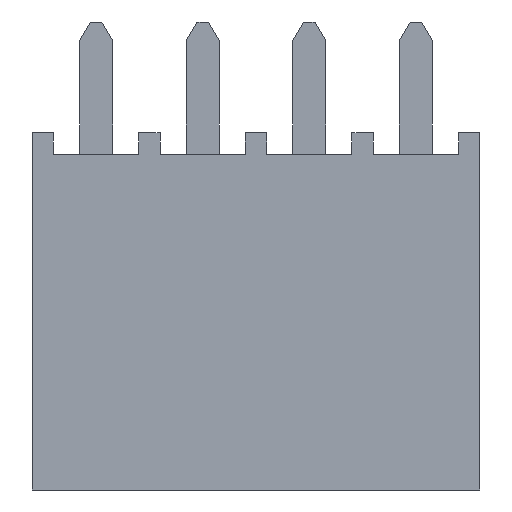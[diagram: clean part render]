
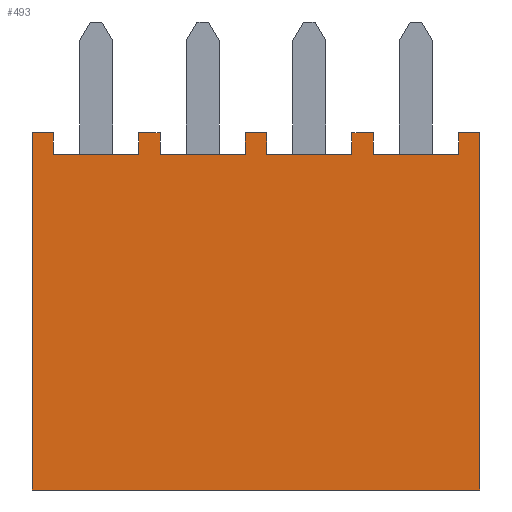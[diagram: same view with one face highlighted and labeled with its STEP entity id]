
A CAD part, front view. The second image highlights one B-rep face of the part: STEP entity #493.
In plain terms, the highlighted planar face has unit normal (0, -1, 0).
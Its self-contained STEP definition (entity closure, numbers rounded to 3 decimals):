
#413 = EDGE_CURVE('',#414,#416,#418,.T.);
#414 = VERTEX_POINT('',#415);
#415 = CARTESIAN_POINT('',(0.254,-1.173,-2.274));
#416 = VERTEX_POINT('',#417);
#417 = CARTESIAN_POINT('',(2.286,-1.173,-2.274));
#418 = LINE('',#419,#420);
#419 = CARTESIAN_POINT('',(5.334,-1.173,-2.274));
#420 = VECTOR('',#421,1.);
#421 = DIRECTION('',(1.,0.,0.));
#493 = ADVANCED_FACE('',(#494),#647,.F.);
#494 = FACE_BOUND('',#495,.T.);
#495 = EDGE_LOOP('',(#496,#506,#514,#522,#530,#536,#537,#545,#553,#561,
    #569,#577,#585,#593,#601,#609,#617,#625,#633,#641));
#496 = ORIENTED_EDGE('',*,*,#497,.F.);
#497 = EDGE_CURVE('',#498,#500,#502,.T.);
#498 = VERTEX_POINT('',#499);
#499 = CARTESIAN_POINT('',(4.826,-1.173,-2.274));
#500 = VERTEX_POINT('',#501);
#501 = CARTESIAN_POINT('',(4.826,-1.173,-1.766));
#502 = LINE('',#503,#504);
#503 = CARTESIAN_POINT('',(4.826,-1.173,-10.275));
#504 = VECTOR('',#505,1.);
#505 = DIRECTION('',(0.,0.,1.));
#506 = ORIENTED_EDGE('',*,*,#507,.F.);
#507 = EDGE_CURVE('',#508,#498,#510,.T.);
#508 = VERTEX_POINT('',#509);
#509 = CARTESIAN_POINT('',(2.794,-1.173,-2.274));
#510 = LINE('',#511,#512);
#511 = CARTESIAN_POINT('',(5.334,-1.173,-2.274));
#512 = VECTOR('',#513,1.);
#513 = DIRECTION('',(1.,0.,0.));
#514 = ORIENTED_EDGE('',*,*,#515,.F.);
#515 = EDGE_CURVE('',#516,#508,#518,.T.);
#516 = VERTEX_POINT('',#517);
#517 = CARTESIAN_POINT('',(2.794,-1.173,-1.766));
#518 = LINE('',#519,#520);
#519 = CARTESIAN_POINT('',(2.794,-1.173,-10.275));
#520 = VECTOR('',#521,1.);
#521 = DIRECTION('',(0.,0.,-1.));
#522 = ORIENTED_EDGE('',*,*,#523,.T.);
#523 = EDGE_CURVE('',#516,#524,#526,.T.);
#524 = VERTEX_POINT('',#525);
#525 = CARTESIAN_POINT('',(2.286,-1.173,-1.766));
#526 = LINE('',#527,#528);
#527 = CARTESIAN_POINT('',(5.334,-1.173,-1.766));
#528 = VECTOR('',#529,1.);
#529 = DIRECTION('',(-1.,0.,0.));
#530 = ORIENTED_EDGE('',*,*,#531,.F.);
#531 = EDGE_CURVE('',#416,#524,#532,.T.);
#532 = LINE('',#533,#534);
#533 = CARTESIAN_POINT('',(2.286,-1.173,-10.275));
#534 = VECTOR('',#535,1.);
#535 = DIRECTION('',(0.,0.,1.));
#536 = ORIENTED_EDGE('',*,*,#413,.F.);
#537 = ORIENTED_EDGE('',*,*,#538,.F.);
#538 = EDGE_CURVE('',#539,#414,#541,.T.);
#539 = VERTEX_POINT('',#540);
#540 = CARTESIAN_POINT('',(0.254,-1.173,-1.766));
#541 = LINE('',#542,#543);
#542 = CARTESIAN_POINT('',(0.254,-1.173,-10.275));
#543 = VECTOR('',#544,1.);
#544 = DIRECTION('',(0.,0.,-1.));
#545 = ORIENTED_EDGE('',*,*,#546,.T.);
#546 = EDGE_CURVE('',#539,#547,#549,.T.);
#547 = VERTEX_POINT('',#548);
#548 = CARTESIAN_POINT('',(-0.254,-1.173,-1.766));
#549 = LINE('',#550,#551);
#550 = CARTESIAN_POINT('',(5.334,-1.173,-1.766));
#551 = VECTOR('',#552,1.);
#552 = DIRECTION('',(-1.,0.,0.));
#553 = ORIENTED_EDGE('',*,*,#554,.F.);
#554 = EDGE_CURVE('',#555,#547,#557,.T.);
#555 = VERTEX_POINT('',#556);
#556 = CARTESIAN_POINT('',(-0.254,-1.173,-2.274));
#557 = LINE('',#558,#559);
#558 = CARTESIAN_POINT('',(-0.254,-1.173,-10.275));
#559 = VECTOR('',#560,1.);
#560 = DIRECTION('',(0.,0.,1.));
#561 = ORIENTED_EDGE('',*,*,#562,.F.);
#562 = EDGE_CURVE('',#563,#555,#565,.T.);
#563 = VERTEX_POINT('',#564);
#564 = CARTESIAN_POINT('',(-2.286,-1.173,-2.274));
#565 = LINE('',#566,#567);
#566 = CARTESIAN_POINT('',(5.334,-1.173,-2.274));
#567 = VECTOR('',#568,1.);
#568 = DIRECTION('',(1.,0.,0.));
#569 = ORIENTED_EDGE('',*,*,#570,.F.);
#570 = EDGE_CURVE('',#571,#563,#573,.T.);
#571 = VERTEX_POINT('',#572);
#572 = CARTESIAN_POINT('',(-2.286,-1.173,-1.766));
#573 = LINE('',#574,#575);
#574 = CARTESIAN_POINT('',(-2.286,-1.173,-10.275));
#575 = VECTOR('',#576,1.);
#576 = DIRECTION('',(0.,0.,-1.));
#577 = ORIENTED_EDGE('',*,*,#578,.T.);
#578 = EDGE_CURVE('',#571,#579,#581,.T.);
#579 = VERTEX_POINT('',#580);
#580 = CARTESIAN_POINT('',(-2.794,-1.173,-1.766));
#581 = LINE('',#582,#583);
#582 = CARTESIAN_POINT('',(5.334,-1.173,-1.766));
#583 = VECTOR('',#584,1.);
#584 = DIRECTION('',(-1.,0.,0.));
#585 = ORIENTED_EDGE('',*,*,#586,.F.);
#586 = EDGE_CURVE('',#587,#579,#589,.T.);
#587 = VERTEX_POINT('',#588);
#588 = CARTESIAN_POINT('',(-2.794,-1.173,-2.274));
#589 = LINE('',#590,#591);
#590 = CARTESIAN_POINT('',(-2.794,-1.173,-10.275));
#591 = VECTOR('',#592,1.);
#592 = DIRECTION('',(0.,0.,1.));
#593 = ORIENTED_EDGE('',*,*,#594,.F.);
#594 = EDGE_CURVE('',#595,#587,#597,.T.);
#595 = VERTEX_POINT('',#596);
#596 = CARTESIAN_POINT('',(-4.826,-1.173,-2.274));
#597 = LINE('',#598,#599);
#598 = CARTESIAN_POINT('',(5.334,-1.173,-2.274));
#599 = VECTOR('',#600,1.);
#600 = DIRECTION('',(1.,0.,0.));
#601 = ORIENTED_EDGE('',*,*,#602,.F.);
#602 = EDGE_CURVE('',#603,#595,#605,.T.);
#603 = VERTEX_POINT('',#604);
#604 = CARTESIAN_POINT('',(-4.826,-1.173,-1.766));
#605 = LINE('',#606,#607);
#606 = CARTESIAN_POINT('',(-4.826,-1.173,-10.275));
#607 = VECTOR('',#608,1.);
#608 = DIRECTION('',(0.,0.,-1.));
#609 = ORIENTED_EDGE('',*,*,#610,.T.);
#610 = EDGE_CURVE('',#603,#611,#613,.T.);
#611 = VERTEX_POINT('',#612);
#612 = CARTESIAN_POINT('',(-5.334,-1.173,-1.766));
#613 = LINE('',#614,#615);
#614 = CARTESIAN_POINT('',(5.334,-1.173,-1.766));
#615 = VECTOR('',#616,1.);
#616 = DIRECTION('',(-1.,0.,0.));
#617 = ORIENTED_EDGE('',*,*,#618,.F.);
#618 = EDGE_CURVE('',#619,#611,#621,.T.);
#619 = VERTEX_POINT('',#620);
#620 = CARTESIAN_POINT('',(-5.334,-1.173,-10.275));
#621 = LINE('',#622,#623);
#622 = CARTESIAN_POINT('',(-5.334,-1.173,-10.275));
#623 = VECTOR('',#624,1.);
#624 = DIRECTION('',(0.,0.,1.));
#625 = ORIENTED_EDGE('',*,*,#626,.F.);
#626 = EDGE_CURVE('',#627,#619,#629,.T.);
#627 = VERTEX_POINT('',#628);
#628 = CARTESIAN_POINT('',(5.334,-1.173,-10.275));
#629 = LINE('',#630,#631);
#630 = CARTESIAN_POINT('',(5.334,-1.173,-10.275));
#631 = VECTOR('',#632,1.);
#632 = DIRECTION('',(-1.,0.,0.));
#633 = ORIENTED_EDGE('',*,*,#634,.T.);
#634 = EDGE_CURVE('',#627,#635,#637,.T.);
#635 = VERTEX_POINT('',#636);
#636 = CARTESIAN_POINT('',(5.334,-1.173,-1.766));
#637 = LINE('',#638,#639);
#638 = CARTESIAN_POINT('',(5.334,-1.173,-10.275));
#639 = VECTOR('',#640,1.);
#640 = DIRECTION('',(0.,0.,1.));
#641 = ORIENTED_EDGE('',*,*,#642,.T.);
#642 = EDGE_CURVE('',#635,#500,#643,.T.);
#643 = LINE('',#644,#645);
#644 = CARTESIAN_POINT('',(5.334,-1.173,-1.766));
#645 = VECTOR('',#646,1.);
#646 = DIRECTION('',(-1.,0.,0.));
#647 = PLANE('',#648);
#648 = AXIS2_PLACEMENT_3D('',#649,#650,#651);
#649 = CARTESIAN_POINT('',(5.334,-1.173,-10.275));
#650 = DIRECTION('',(0.,1.,0.));
#651 = DIRECTION('',(1.,0.,0.));
